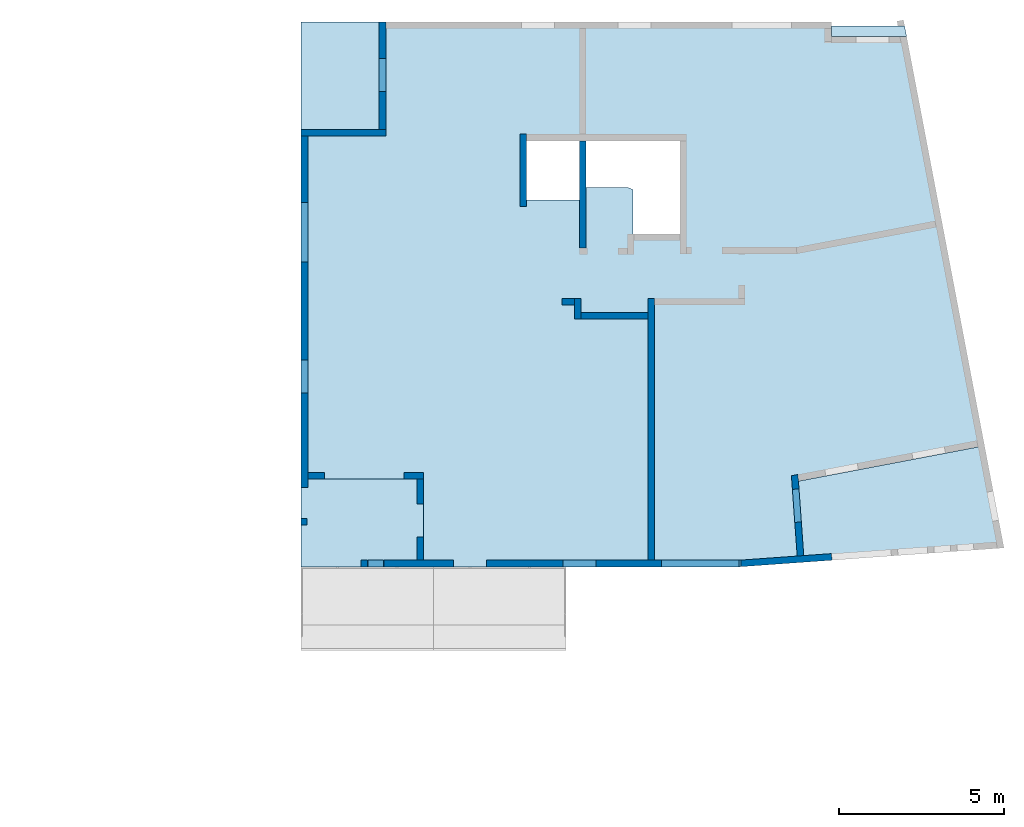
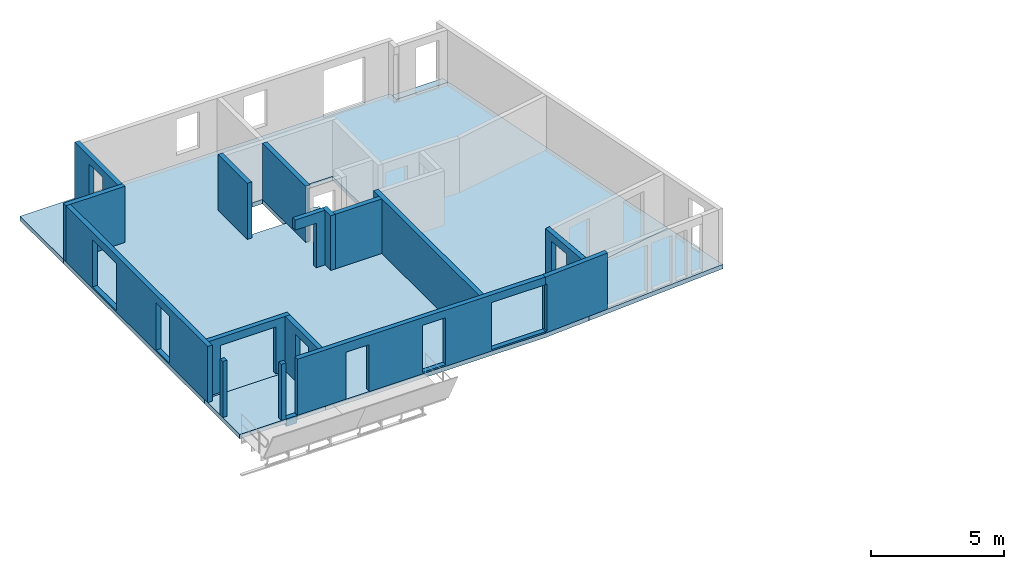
# One storey, part 1 of 6: 14 walls, 5 slabs, 2 columns, 1 beam, 14 openings.
"""IFC2X3 building model written with IfcOpenShell, lengths in centimetres."""

from ifc_helpers import new_model, entity, si_unit, converted_unit, derived_unit, direction, frame, frame_2d, origin, origin_2d_with_axis, place, context, subcontext, project, spatial, polyline, rectangle, outline, extrude, clip, bounded_halfspace, face_set, surface_model, source, transform, mapped, material, layer, layer_set, layer_usage, type_object, type_shapes, element, save


model = new_model("IFC2X3")

# Units and contexts
model_context = context("Model", 3, precision=0.001, world=origin(), true_north=direction((6.12303176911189e-17, 1.0)))
body_context = subcontext(model_context, "Body", "Model", "MODEL_VIEW")
ifc_project = project(units=[si_unit("LENGTHUNIT", "METRE", prefix="CENTI"), si_unit("AREAUNIT", "SQUARE_METRE"), si_unit("VOLUMEUNIT", "CUBIC_METRE"), converted_unit("PLANEANGLEUNIT", "DEGREE", entity("IfcRatioMeasure", 0.0174532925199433), si_unit("PLANEANGLEUNIT", "RADIAN"), dimensions=[0, 0, 0, 0, 0, 0, 0]), si_unit("MASSUNIT", "GRAM", prefix="KILO"), si_unit("TIMEUNIT", "SECOND"), si_unit("FREQUENCYUNIT", "HERTZ"), si_unit("THERMODYNAMICTEMPERATUREUNIT", "DEGREE_CELSIUS"), derived_unit("THERMALTRANSMITTANCEUNIT", [(si_unit("MASSUNIT", "GRAM", prefix="KILO"), 1), (si_unit("THERMODYNAMICTEMPERATUREUNIT", "KELVIN"), -1), (si_unit("TIMEUNIT", "SECOND"), -3)]), derived_unit("VOLUMETRICFLOWRATEUNIT", [(si_unit("LENGTHUNIT", "METRE"), 3), (si_unit("TIMEUNIT", "SECOND"), -1)]), si_unit("ELECTRICCURRENTUNIT", "AMPERE"), si_unit("ELECTRICVOLTAGEUNIT", "VOLT"), si_unit("POWERUNIT", "WATT"), si_unit("FORCEUNIT", "NEWTON"), si_unit("ILLUMINANCEUNIT", "LUX"), si_unit("LUMINOUSFLUXUNIT", "LUMEN"), si_unit("LUMINOUSINTENSITYUNIT", "CANDELA"), derived_unit("USERDEFINED", [(si_unit("MASSUNIT", "GRAM", prefix="KILO"), -1), (si_unit("LENGTHUNIT", "METRE"), -2), (si_unit("TIMEUNIT", "SECOND"), 3), (si_unit("LUMINOUSFLUXUNIT", "LUMEN"), 1)]), derived_unit("LINEARVELOCITYUNIT", [(si_unit("LENGTHUNIT", "METRE"), 1), (si_unit("TIMEUNIT", "SECOND"), -1)]), si_unit("PRESSUREUNIT", "PASCAL"), derived_unit("USERDEFINED", [(si_unit("LENGTHUNIT", "METRE"), -2), (si_unit("MASSUNIT", "GRAM", prefix="KILO"), 1), (si_unit("TIMEUNIT", "SECOND"), -2)])], contexts=[model_context])

# Site, building, storey
site_placement = place(None, origin())
site = spatial("IfcSite", under=ifc_project, at=site_placement, Name="Default", CompositionType="ELEMENT")
building_placement = place(site_placement, origin())
building = spatial("IfcBuilding", under=site, at=building_placement, CompositionType="ELEMENT")
storey_placement = place(building_placement, frame((0.0, 0.0, 544.0)))
storey = spatial("IfcBuildingStorey", under=building, at=storey_placement, Name="R+2", CompositionType="ELEMENT", Elevation=544.0)

# Columns
ifc_material_1 = material(Name="Béton_C25/30")
column_type_1 = type_object("IfcColumnType", Name="POTEAU_20x20_C25/30", PredefinedType="COLUMN", material=ifc_material_1)
shared_shape_1 = source(origin(), body_context, "Body", "SweptSolid", [
    extrude(rectangle(XDim=19.9999999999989, YDim=20.0, at=frame_2d((0.0, -1.08357767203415e-13), x_axis=(1.0, 0.0))), frame((1066.79142480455, 23217.301413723, 537.0), z_axis=(0.0, 0.0, 1.0), x_axis=(0.0, -1.0, 0.0)), (0.0, 0.0, 1.0), 257.0),
])
type_shapes(column_type_1, [shared_shape_1])
column_1_placement = place(storey_placement, frame((0.0, 0.0, -544.0)))
element("IfcColumn", 1, at=column_1_placement, inside=storey, type_object=column_type_1, material=ifc_material_1, Name="MR_POTEAU RECTANGULAIRE:POTEAU_20x20_C25/30", ObjectType="POTEAU_20x20_C25/30", context=body_context, shape_type="MappedRepresentation", body=[
    mapped(shared_shape_1, transform((0.0, 0.0, 0.0), scale=1.0)),
])
column_type_2 = type_object("IfcColumnType", Name="POTEAU_18x20_C25/30", PredefinedType="COLUMN", material=ifc_material_1)
shared_shape_2 = source(origin(), body_context, "Body", "SweptSolid", [
    extrude(rectangle(XDim=19.9999999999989, YDim=18.0, at=origin_2d_with_axis()), frame((885.385889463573, 23344.0596457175, 537.0), z_axis=(0.0, 0.0, 1.0), x_axis=(0.0, -1.0, 0.0)), (0.0, 0.0, 1.0), 257.0),
])
type_shapes(column_type_2, [shared_shape_2])
column_2_placement = place(storey_placement, frame((0.0, 0.0, -544.0)))
element("IfcColumn", 2, at=column_2_placement, inside=storey, type_object=column_type_2, material=ifc_material_1, Name="MR_POTEAU RECTANGULAIRE:POTEAU_18x20_C25/30", ObjectType="POTEAU_18x20_C25/30", context=body_context, shape_type="MappedRepresentation", body=[
    mapped(shared_shape_2, transform((0.0, 0.0, 0.0), scale=1.0)),
])

# Beam
shared_shape_3 = source(origin(), body_context, "Body", "SurfaceModel", [
    surface_model("IfcFaceBasedSurfaceModel", [(3.39023240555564, 0.0, 35.0), (3.39023240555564, 0.0, 0.0), (3.39023240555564, 20.0, 0.0), (3.39023240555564, 20.0, 35.0), (50.000076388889, 0.0, 35.0), (50.000076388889, 0.0, 0.0), (50.000076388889, 20.0, 0.0), (50.000076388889, 20.0, 35.0)], [face_set([[[0, 1, 2, 3]], [[4, 5, 6, 7]], [[3, 0, 4, 7]], [[2, 3, 7, 6]], [[1, 2, 6, 5]], [[0, 1, 5, 4]]])]),
])
beam_placement = place(storey_placement, frame((1074.67119239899, 23207.301413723, -42.0)))
element("IfcBeam", 3, at=beam_placement, inside=storey, material=ifc_material_1, Name="BB_POUTRE RECTANGULAIRE:20x35 ht", ObjectType="20x35 ht", context=body_context, shape_type="MappedRepresentation", body=[
    mapped(shared_shape_3, transform((0.0, 0.0, 0.0), scale=1.0)),
])

# Slab
ifc_layer_1 = layer(ifc_material_1, 20.0)
ifc_layer_set_1 = layer_set([ifc_layer_1], Name="Sol:DALLE_20_C25/30")
ifc_layer_usage_1 = layer_usage(ifc_layer_set_1, "AXIS3", "POSITIVE", 0.0)
slab_1_placement = place(storey_placement, origin())
element("IfcSlab", 4, at=slab_1_placement, inside=storey, material=ifc_layer_usage_1, Name="Sol:DALLE_20_C25/30", ObjectType="Sol:DALLE_20_C25/30", PredefinedType="FLOOR", context=body_context, shape_type="SweptSolid", body=[
    extrude(rectangle(XDim=265.758386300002, YDim=370.405535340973, at=frame_2d((-1.73372427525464e-12, 0.0), x_axis=(1.0, 0.0))), frame((1061.58865713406, 23340.180606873, -7.0), z_axis=(0.0, 0.0, -1.0), x_axis=(0.0, 1.0, 0.0)), (0.0, 0.0, 1.0), 20.0),
])

# Slab, openings
ifc_layer_usage_2 = layer_usage(ifc_layer_set_1, "AXIS3", "POSITIVE", 0.0)
slab_2_placement = place(storey_placement, frame((876.385889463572, 23207.301413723, -27.0)))
slab_2 = element("IfcSlab", 5, at=slab_2_placement, inside=storey, material=ifc_layer_usage_2, Name="Sol:DALLE_20_C25/30", ObjectType="Sol:DALLE_20_C25/30", PredefinedType="FLOOR", context=body_context, shape_type="SweptSolid", body=[
    extrude(outline(polyline([(-569.628100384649, 823.556623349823), (-569.628100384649, 779.253467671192), (-797.271793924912, 779.253467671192), (-1032.77428661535, -457.399013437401), (-470.298881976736, -564.514279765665), (-487.853581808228, -809.445702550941), (-290.971382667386, -823.556623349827), (682.368751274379, -823.556623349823), (682.368751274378, -557.798237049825), (1032.77428661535, -557.798237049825), (1032.77428661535, 498.443376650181), (796.7489260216, 498.443376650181), (796.7489260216, 823.556623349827), (-569.628100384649, 823.556623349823)])), frame((1032.77428661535, 823.556623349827, 20.0), z_axis=(0.0, 0.0, -1.0), x_axis=(-1.0, 0.0, 0.0)), (0.0, 0.0, 1.0), 20.0),
])
opening_1_placement = place(storey_placement, frame((876.385889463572, 23207.301413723, -27.0)))
element("IfcOpeningElement", 6, at=opening_1_placement, cuts=slab_2, ObjectType="Opening", context=body_context, shape_type="SweptSolid", body=[
    extrude(rectangle(XDim=178.833570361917, YDim=160.000244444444, at=frame_2d((271.368153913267, 374.864836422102), x_axis=(0.0, 1.0))), frame((1032.77428661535, 823.556623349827, 20.0), z_axis=(0.0, 0.0, -1.0), x_axis=(-1.0, 0.0, 0.0)), (0.0, 0.0, 1.0), 20.0),
])
opening_2_placement = place(storey_placement, frame((876.385889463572, 23207.301413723, -27.0)))
element("IfcOpeningElement", 7, at=opening_2_placement, cuts=slab_2, ObjectType="Opening", context=body_context, shape_type="SweptSolid", body=[
    extrude(outline(polyline([(171.368031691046, 323.67140678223), (171.368031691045, 464.281621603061), (-112.632432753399, 464.281621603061), (-112.632432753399, 181.447892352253), (29.2458251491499, 181.447892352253), (29.2458251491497, 316.0642780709), (45.5593653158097, 323.67140678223), (171.368031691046, 323.67140678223)])), frame((1032.77428661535, 823.556623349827, 20.0), z_axis=(0.0, 0.0, -1.0), x_axis=(-1.0, 0.0, 0.0)), (0.0, 0.0, 1.0), 20.0),
])

# Slabs
ifc_layer_usage_3 = layer_usage(ifc_layer_set_1, "AXIS3", "POSITIVE", 0.0)
slab_3_placement = place(storey_placement, origin())
element("IfcSlab", 8, at=slab_3_placement, inside=storey, material=ifc_layer_usage_3, Name="Sol:DALLE_20_C25/30", ObjectType="Sol:DALLE_20_C25/30", PredefinedType="FLOOR", context=body_context, shape_type="SweptSolid", body=[
    extrude(outline(polyline([(-15.9377070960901, -112.304294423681), (15.9377070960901, -112.304294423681), (15.9377070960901, 109.269189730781), (-15.9377070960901, 115.339399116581), (-15.9377070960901, -112.304294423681)])), frame((2591.09257088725, 24826.0492118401, -7.0), z_axis=(0.0, 0.0, -1.0), x_axis=(0.0, 1.0, 0.0)), (0.0, 0.0, 1.0), 20.0),
])
ifc_layer_usage_4 = layer_usage(ifc_layer_set_1, "AXIS3", "POSITIVE", 0.0)
slab_4_placement = place(storey_placement, origin())
element("IfcSlab", 9, at=slab_4_placement, inside=storey, material=ifc_layer_usage_4, Name="Sol:DALLE_20_C25/30", ObjectType="Sol:DALLE_20_C25/30", PredefinedType="FLOOR", context=body_context, shape_type="SweptSolid", body=[
    extrude(outline(polyline([(-139.554317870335, -293.435771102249), (174.771550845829, -293.435771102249), (104.33708489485, 307.723466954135), (-139.554317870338, 279.148075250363), (-139.554317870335, -293.435771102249)])), frame((2679.7859457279, 23381.4743511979, -7.0), z_axis=(0.0, 0.0, -1.0), x_axis=(0.187073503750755, -0.982345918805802, 0.0)), (0.0, 0.0, 1.0), 20.0),
])
ifc_layer_usage_5 = layer_usage(ifc_layer_set_1, "AXIS3", "POSITIVE", 0.0)
slab_5_placement = place(storey_placement, origin())
element("IfcSlab", 10, at=slab_5_placement, inside=storey, material=ifc_layer_usage_5, Name="Sol:DALLE_20_C25/30", ObjectType="Sol:DALLE_20_C25/30", PredefinedType="FLOOR", context=body_context, shape_type="SweptSolid", body=[
    extrude(rectangle(XDim=325.112966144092, YDim=236.02536059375, at=frame_2d((0.0, -5.6843418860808e-14), x_axis=(1.0, 0.0))), frame((994.398569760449, 24691.8578967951, -7.0), z_axis=(0.0, 0.0, -1.0), x_axis=(0.0, 1.0, 0.0)), (0.0, 0.0, 1.0), 20.0),
])

# Wall
ifc_material_2 = material(Name="Maçonnerie - Béton")
ifc_layer_2 = layer(ifc_material_2, 20.0)
ifc_layer_set_2 = layer_set([ifc_layer_2], Name="Mur de base:BBM_20")
ifc_layer_usage_6 = layer_usage(ifc_layer_set_2, "AXIS2", "NEGATIVE", 10.0)
wall_type_1 = type_object("IfcWallType", Name="Mur de base:BBM_20", PredefinedType="STANDARD", material=ifc_layer_set_2)
wall_1_placement = place(storey_placement, frame((876.385889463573, 24519.301413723, -7.0)))
element("IfcWallStandardCase", 11, at=wall_1_placement, inside=storey, type_object=wall_type_1, material=ifc_layer_usage_6, Name="Mur de base:BBM_20", ObjectType="Mur de base:BBM_20", context=body_context, shape_type="Clipping", body=[
    clip(extrude(rectangle(XDim=256.02536059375, YDim=20.0000000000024, at=frame_2d((128.012680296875, 0.0), x_axis=(-1.0, 0.0))), origin(), (0.0, 0.0, 1.0), 257.0), bounded_halfspace(frame((0.0, -10.0, 257.0), z_axis=(0.0, 0.0, -1.0), x_axis=(0.0, 1.0, 0.0)), True, frame((0.0, -10.0, 257.0)), polyline([(0.0, 0.0), (20.0, 0.0), (256.02536059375, 0.0), (256.02536059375, 20.0), (236.02536059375, 20.0), (0.0, 20.0), (0.0, 0.0)]))),
])

# Wall, opening
ifc_layer_usage_7 = layer_usage(ifc_layer_set_2, "AXIS2", "NEGATIVE", 10.0)
wall_2_placement = place(storey_placement, frame((1122.41125005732, 24529.301413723, -7.0), z_axis=(0.0, 0.0, 1.0), x_axis=(0.0, 1.0, 0.0)))
wall_2 = element("IfcWallStandardCase", 12, at=wall_2_placement, inside=storey, type_object=wall_type_1, material=ifc_layer_usage_7, Name="Mur de base:BBM_20", ObjectType="Mur de base:BBM_20", context=body_context, shape_type="Clipping", body=[
    clip(extrude(rectangle(XDim=325.113246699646, YDim=20.0000000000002, at=frame_2d((162.556623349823, 0.0), x_axis=(-1.0, 0.0))), origin(), (0.0, 0.0, 1.0), 257.0), bounded_halfspace(frame((0.0, -10.0, 257.0), z_axis=(0.0, 0.0, -1.0), x_axis=(1.0, 0.0, 0.0)), True, frame((0.0, -10.0, 257.0)), polyline([(0.0, 0.0), (305.113246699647, 0.0), (325.113246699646, 0.0), (325.113246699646, 20.0), (0.0, 20.0), (0.0, 0.0)]))),
])
opening_3_placement = place(wall_2_placement, frame((-24529.301413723, 1122.41125005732, 7.0), z_axis=(0.0, 0.0, 1.0), x_axis=(0.0, -1.0, 0.0)))
element("IfcOpeningElement", 13, at=opening_3_placement, cuts=wall_2, Name="Mur de base:BBM_20", ObjectType="Opening", context=body_context, shape_type="SweptSolid", body=[
    extrude(rectangle(XDim=215.0, YDim=100.000000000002, at=frame_2d((0.0, -1.73372427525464e-12), x_axis=(1.0, 0.0))), frame((1264.81125005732, 24694.4146604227, 107.5), z_axis=(-1.0, 0.0, 0.0), x_axis=(0.0, 0.0, -1.0)), (0.0, 0.0, 1.0), 304.8),
])

# Wall, openings
ifc_layer_usage_8 = layer_usage(ifc_layer_set_2, "AXIS2", "NEGATIVE", 10.0)
wall_3_placement = place(storey_placement, frame((886.385889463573, 24509.301413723, -7.0), z_axis=(0.0, 0.0, 1.0), x_axis=(0.0, -1.0, 0.0)))
wall_3 = element("IfcWallStandardCase", 14, at=wall_3_placement, inside=storey, type_object=wall_type_1, material=ifc_layer_usage_8, Name="Mur de base:BBM_20", ObjectType="Mur de base:BBM_20", context=body_context, shape_type="Clipping", body=[
    clip(extrude(rectangle(XDim=1062.0, YDim=20.0, at=frame_2d((531.000000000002, -3.37507799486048e-14), x_axis=(-1.0, 0.0))), origin(), (0.0, 0.0, 1.0), 257.0), bounded_halfspace(frame((0.0, -10.0, 257.0), z_axis=(0.0, 0.0, -1.0), x_axis=(-1.0, 0.0, 0.0)), True, frame((0.0, -10.0, 257.0)), polyline([(0.0, 0.0), (1062.0, 0.0), (1062.0, 18.0), (1062.0, 20.0), (1036.2416137, 20.0), (1016.2416137, 20.0), (0.0, 20.0), (0.0, 0.0)]))),
])
opening_4_placement = place(wall_3_placement, frame((24509.301413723, -886.385889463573, 7.0), z_axis=(0.0, 0.0, 1.0), x_axis=(0.0, 1.0, 0.0)))
element("IfcOpeningElement", 15, at=opening_4_placement, cuts=wall_3, Name="Mur de base:BBM_20", ObjectType="Opening", context=body_context, shape_type="SweptSolid", body=[
    extrude(rectangle(XDim=215.0, YDim=180.000000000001, at=frame_2d((0.0, 0.0), x_axis=(0.0, 1.0))), frame((723.985889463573, 24219.301413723, 107.5), z_axis=(1.0, 0.0, 0.0), x_axis=(0.0, -1.0, 0.0)), (0.0, 0.0, 1.0), 304.8),
])
opening_5_placement = place(wall_3_placement, frame((24509.301413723, -886.385889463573, 7.0), z_axis=(0.0, 0.0, 1.0), x_axis=(0.0, 1.0, 0.0)))
element("IfcOpeningElement", 16, at=opening_5_placement, cuts=wall_3, Name="Mur de base:BBM_20", ObjectType="Opening", context=body_context, shape_type="SweptSolid", body=[
    extrude(rectangle(XDim=215.0, YDim=99.9999999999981, at=frame_2d((-1.73372427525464e-12, 0.0), x_axis=(0.0, 1.0))), frame((723.985889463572, 23783.059800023, 107.5), z_axis=(1.0, 0.0, 0.0), x_axis=(0.0, -1.0, 0.0)), (0.0, 0.0, 1.0), 304.8),
])

# Wall, opening
ifc_layer_usage_9 = layer_usage(ifc_layer_set_2, "AXIS2", "NEGATIVE", 10.0)
wall_4_placement = place(storey_placement, frame((896.385889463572, 23483.059800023, 0.0)))
wall_4 = element("IfcWallStandardCase", 17, at=wall_4_placement, inside=storey, type_object=wall_type_1, material=ifc_layer_usage_9, Name="Mur de base:BBM_20", ObjectType="Mur de base:BBM_20", context=body_context, shape_type="Clipping", body=[
    clip(extrude(rectangle(XDim=350.405535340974, YDim=20.0000000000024, at=frame_2d((175.202767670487, 0.0), x_axis=(-1.0, 0.0))), origin(), (0.0, 0.0, 1.0), 250.0), bounded_halfspace(frame((0.0, -10.0, 250.0), z_axis=(0.0, 0.0, -1.0), x_axis=(0.0, 1.0, 0.0)), True, frame((0.0, -10.0, 250.0)), polyline([(0.0, 0.0), (330.405535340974, 0.0), (350.405535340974, 0.0), (350.405535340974, 20.0), (0.0, 20.0), (0.0, 0.0)]))),
])
opening_6_placement = place(wall_4_placement, frame((-896.385889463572, -23483.059800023, 0.0)))
element("IfcOpeningElement", 18, at=opening_6_placement, cuts=wall_4, Name="Mur de base:BBM_20", ObjectType="Opening", context=body_context, shape_type="SweptSolid", body=[
    extrude(rectangle(XDim=215.0, YDim=240.0, at=frame_2d((0.0, 0.0), x_axis=(0.0, 1.0))), frame((1066.79142480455, 23320.659800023, 107.5), z_axis=(0.0, 1.0, 0.0), x_axis=(1.0, 0.0, 0.0)), (0.0, 0.0, 1.0), 304.8),
])

ifc_layer_usage_10 = layer_usage(ifc_layer_set_2, "AXIS2", "NEGATIVE", 10.0)
wall_5_placement = place(storey_placement, frame((1236.79142480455, 23473.059800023, 0.0), z_axis=(0.0, 0.0, 1.0), x_axis=(0.0, -1.0, 0.0)))
wall_5 = element("IfcWallStandardCase", 19, at=wall_5_placement, inside=storey, type_object=wall_type_1, material=ifc_layer_usage_10, Name="Mur de base:BBM_20", ObjectType="Mur de base:BBM_20", context=body_context, shape_type="Clipping", body=[
    clip(extrude(rectangle(XDim=245.7583863, YDim=20.0000000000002, at=frame_2d((122.87919315, -1.59872115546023e-14), x_axis=(-1.0, 0.0))), origin(), (0.0, 0.0, 1.0), 250.0), bounded_halfspace(frame((0.0, -10.0, 250.0), z_axis=(0.0, 0.0, -1.0), x_axis=(-1.0, 0.0, 0.0)), True, frame((0.0, -10.0, 250.0)), polyline([(0.0, 0.0), (245.7583863, 0.0), (245.7583863, 20.0), (0.0, 20.0), (0.0, 0.0)]))),
])
opening_7_placement = place(wall_5_placement, frame((23473.059800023, -1236.79142480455, 0.0), z_axis=(0.0, 0.0, 1.0), x_axis=(0.0, 1.0, 0.0)))
element("IfcOpeningElement", 20, at=opening_7_placement, cuts=wall_5, Name="Mur de base:BBM_20", ObjectType="Opening", context=body_context, shape_type="SweptSolid", body=[
    extrude(rectangle(XDim=215.0, YDim=99.9999999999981, at=frame_2d((-1.73372427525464e-12, 0.0), x_axis=(0.0, 1.0))), frame((1074.39142480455, 23347.301413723, 107.5), z_axis=(1.0, 0.0, 0.0), x_axis=(0.0, -1.0, 0.0)), (0.0, 0.0, 1.0), 304.8),
])

# Wall, openings
ifc_layer_usage_11 = layer_usage(ifc_layer_set_2, "AXIS2", "NEGATIVE", 10.0)
wall_6_placement = place(storey_placement, frame((1126.79142480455, 23217.301413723, -7.0)))
wall_6 = element("IfcWallStandardCase", 21, at=wall_6_placement, inside=storey, type_object=wall_type_1, material=ifc_layer_usage_11, Name="Mur de base:BBM_20", ObjectType="Mur de base:BBM_20", context=body_context, shape_type="Clipping", body=[
    clip(extrude(outline(polyline([(0.0, -10.0), (1073.34013394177, -10.0), (1072.62433303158, 10.0), (817.356097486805, 10.0), (797.356097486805, 10.0), (120.0, 10.0), (100.0, 10.0), (0.0, 10.0), (0.0, -10.0)])), origin(), (0.0, 0.0, 1.0), 257.0), bounded_halfspace(frame((0.0, -10.0, 257.0), z_axis=(0.0, 0.0, -1.0), x_axis=(0.0, 1.0, 0.0)), True, frame((0.0, -10.0, 257.0)), polyline([(0.0, 0.0), (1073.34013394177, 0.0), (1072.62433303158, 20.0), (817.356097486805, 20.0), (797.356097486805, 20.0), (120.0, 20.0), (100.0, 20.0), (0.0, 20.0), (0.0, 0.0)]))),
])
opening_8_placement = place(wall_6_placement, frame((-1126.79142480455, -23217.301413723, 7.0)))
element("IfcOpeningElement", 22, at=opening_8_placement, cuts=wall_6, Name="Mur de base:BBM_20", ObjectType="Opening", context=body_context, shape_type="SweptSolid", body=[
    extrude(rectangle(XDim=215.0, YDim=240.0, at=origin_2d_with_axis()), frame((2086.14752229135, 23074.901413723, 107.5), z_axis=(0.0, 1.0, 0.0), x_axis=(0.0, 0.0, -1.0)), (0.0, 0.0, 1.0), 304.8),
])
opening_9_placement = place(wall_6_placement, frame((-1126.79142480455, -23217.301413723, 7.0)))
element("IfcOpeningElement", 23, at=opening_9_placement, cuts=wall_6, Name="Mur de base:BBM_20", ObjectType="Opening", context=body_context, shape_type="SweptSolid", body=[
    extrude(rectangle(XDim=215.0, YDim=100.0, at=frame_2d((-5.6843418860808e-14, -1.06581410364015e-13), x_axis=(1.0, 0.0))), frame((1386.79142480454, 23074.901413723, 100.5), z_axis=(0.0, 1.0, 0.0), x_axis=(0.0, 0.0, -1.0)), (0.0, 0.0, 1.0), 304.8),
])
opening_10_placement = place(wall_6_placement, frame((-1126.79142480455, -23217.301413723, 7.0)))
element("IfcOpeningElement", 24, at=opening_10_placement, cuts=wall_6, Name="Mur de base:BBM_20", ObjectType="Opening", context=body_context, shape_type="SweptSolid", body=[
    extrude(rectangle(XDim=215.0, YDim=99.9999999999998, at=frame_2d((-1.10134124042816e-13, 0.0), x_axis=(0.0, 1.0))), frame((1718.14752229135, 23054.901413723, 107.5), z_axis=(0.0, 1.0, 0.0), x_axis=(1.0, 0.0, 0.0)), (0.0, 0.0, 1.0), 304.8),
])

ifc_layer_usage_12 = layer_usage(ifc_layer_set_2, "AXIS2", "NEGATIVE", 10.0)
wall_7_placement = place(storey_placement, frame((2199.41667355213, 23217.2758279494, -7.0), z_axis=(0.0, 0.0, 1.0), x_axis=(0.997441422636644, 0.0714885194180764, 0.0)))
wall_7 = element("IfcWallStandardCase", 25, at=wall_7_placement, inside=storey, type_object=wall_type_1, material=ifc_layer_usage_12, Name="Mur de base:BBM_20", ObjectType="Mur de base:BBM_20", context=body_context, shape_type="Clipping", body=[
    clip(extrude(outline(polyline([(281.435112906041, -10.0), (281.435112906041, 10.0), (197.387229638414, 10.0), (177.387229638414, 10.0), (0.715800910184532, 10.0), (0.0, -10.0), (281.435112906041, -10.0)])), origin(), (0.0, 0.0, 1.0), 257.0), bounded_halfspace(frame((0.0, -10.0, 257.0), z_axis=(0.0, 0.0, -1.0), x_axis=(0.071488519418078, 0.997441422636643, 0.0)), True, frame((0.0, -10.0, 257.0)), polyline([(0.0, 0.0), (281.435112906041, 0.0), (281.435112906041, 20.0), (197.387229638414, 20.0), (177.387229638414, 20.0), (0.715800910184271, 20.0), (0.0, 0.0)]))),
])
opening_11_placement = place(wall_7_placement, origin())
element("IfcOpeningElement", 26, at=opening_11_placement, cuts=wall_7, Name="Mur de base:BBM_20", ObjectType="Opening", context=body_context, shape_type="SweptSolid", body=[
    extrude(rectangle(XDim=215.0, YDim=180.0, at=frame_2d((-2.20268248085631e-13, 0.0), x_axis=(0.0, 1.0))), frame((371.435112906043, -162.400000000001, 114.5), z_axis=(0.0, 1.0, 0.0), x_axis=(1.0, 0.0, 0.0)), (0.0, 0.0, 1.0), 304.800000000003),
])
opening_12_placement = place(wall_7_placement, origin())
element("IfcOpeningElement", 27, at=opening_12_placement, cuts=wall_7, Name="Mur de base:BBM_20", ObjectType="Opening", context=body_context, shape_type="SweptSolid", body=[
    extrude(rectangle(XDim=215.0, YDim=240.0, at=origin_2d_with_axis()), frame((-113.692399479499, -1.85144999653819, 114.5), z_axis=(0.0714885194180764, 0.997441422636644, 0.0), x_axis=(0.0, 0.0, -1.0)), (0.0, 0.0, 1.0), 19.9999999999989),
])

# Wall, opening
ifc_layer_usage_13 = layer_usage(ifc_layer_set_2, "AXIS2", "NEGATIVE", 10.0)
wall_8_placement = place(storey_placement, frame((2385.60957327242, 23240.6462777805, -7.0), z_axis=(0.0, 0.0, 1.0), x_axis=(-0.0714885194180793, 0.997441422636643, 0.0)))
wall_8 = element("IfcWallStandardCase", 28, at=wall_8_placement, inside=storey, type_object=wall_type_1, material=ifc_layer_usage_13, Name="Mur de base:BBM_20", ObjectType="Mur de base:BBM_20", context=body_context, shape_type="Clipping", body=[
    clip(extrude(outline(polyline([(245.69651337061, -10.0), (243.353225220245, 10.0), (0.0, 10.0), (0.0, -10.0), (225.559706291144, -10.0), (245.69651337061, -10.0)])), origin(), (0.0, 0.0, 1.0), 257.0), bounded_halfspace(frame((0.0, -10.0, 257.0), z_axis=(0.0, 0.0, -1.0), x_axis=(0.997441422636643, -0.0714885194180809, 0.0)), True, frame((0.0, -10.0, 257.0)), polyline([(0.0, 0.0), (225.559706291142, 0.0), (245.696513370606, 0.0), (243.353225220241, 20.0), (0.0, 20.0), (0.0, 0.0)]))),
])
opening_13_placement = place(wall_8_placement, frame((-23010.6395900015, 4040.94519933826, 7.0), z_axis=(0.0, 0.0, 1.0), x_axis=(-0.0714885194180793, -0.997441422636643, 0.0)))
element("IfcOpeningElement", 29, at=opening_13_placement, cuts=wall_8, Name="Mur de base:BBM_20", ObjectType="Opening", context=body_context, shape_type="SweptSolid", body=[
    extrude(rectangle(XDim=215.0, YDim=100.000000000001, at=frame_2d((0.0, -1.74082970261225e-12), x_axis=(1.0, 0.0))), frame((2516.78000828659, 23402.4229488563, 107.5), z_axis=(-0.997441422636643, -0.0714885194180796, 0.0), x_axis=(0.0, 0.0, -1.0)), (0.0, 0.0, 1.0), 304.8),
])

# Walls
ifc_layer_3 = layer(ifc_material_1, 20.0)
ifc_layer_set_3 = layer_set([ifc_layer_3], Name="Mur de base:VOILE_20_C25/30")
ifc_layer_usage_14 = layer_usage(ifc_layer_set_3, "AXIS2", "NEGATIVE", 10.0)
wall_type_2 = type_object("IfcWallType", Name="Mur de base:VOILE_20_C25/30", PredefinedType="STANDARD", material=ifc_layer_set_3)
wall_9_placement = place(storey_placement, frame((1547.79189994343, 24296.306363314, -7.0), z_axis=(0.0, 0.0, 1.0), x_axis=(0.0, 1.0, 0.0)))
element("IfcWallStandardCase", 30, at=wall_9_placement, inside=storey, type_object=wall_type_2, material=ifc_layer_usage_14, Name="Mur de base:VOILE_20_C25/30", ObjectType="Mur de base:VOILE_20_C25/30", context=body_context, shape_type="Clipping", body=[
    clip(extrude(rectangle(XDim=218.833295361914, YDim=19.9999999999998, at=frame_2d((109.416647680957, 1.06581410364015e-14), x_axis=(-1.0, 0.0))), origin(), (0.0, 0.0, 1.0), 257.0), bounded_halfspace(frame((0.0, -10.0, 257.0), z_axis=(0.0, 0.0, -1.0), x_axis=(1.0, 0.0, 0.0)), True, frame((0.0, -10.0, 257.0)), polyline([(0.0, 0.0), (198.833295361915, 0.0), (218.833295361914, 0.0), (218.833295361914, 20.0), (0.0, 20.0), (0.0, 0.0)]))),
])
ifc_layer_usage_15 = layer_usage(ifc_layer_set_3, "AXIS2", "NEGATIVE", 10.0)
wall_10_placement = place(storey_placement, frame((1727.79214438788, 24171.3058652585, -7.0), z_axis=(0.0, 0.0, 1.0), x_axis=(0.0, 1.0, 0.0)))
element("IfcWallStandardCase", 31, at=wall_10_placement, inside=storey, type_object=wall_type_2, material=ifc_layer_usage_15, Name="Mur de base:VOILE_20_C25/30", ObjectType="Mur de base:VOILE_20_C25/30", context=body_context, shape_type="Clipping", body=[
    clip(extrude(rectangle(XDim=323.833793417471, YDim=20.0000000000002, at=frame_2d((161.916896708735, -6.21724893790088e-15), x_axis=(-1.0, 0.0))), origin(), (0.0, 0.0, 1.0), 257.0), bounded_halfspace(frame((0.0, -10.0, 257.0), z_axis=(0.0, 0.0, -1.0), x_axis=(1.0, 0.0, 0.0)), True, frame((0.0, -10.0, 257.0)), polyline([(0.0, 0.0), (323.833793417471, 0.0), (323.833793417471, 20.0), (0.0, 20.0), (0.0, 0.0)]))),
])
ifc_layer_usage_16 = layer_usage(ifc_layer_set_3, "AXIS2", "NEGATIVE", 10.0)
wall_11_placement = place(storey_placement, frame((1934.14752229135, 23227.301413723, 0.0), z_axis=(0.0, 0.0, 1.0), x_axis=(0.0, 1.0, 0.0)))
element("IfcWallStandardCase", 32, at=wall_11_placement, inside=storey, type_object=wall_type_2, material=ifc_layer_usage_16, Name="Mur de base:VOILE_20_C25/30", ObjectType="Mur de base:VOILE_20_C25/30", context=body_context, shape_type="Clipping", body=[
    clip(extrude(rectangle(XDim=791.004217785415, YDim=19.9999999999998, at=frame_2d((395.502108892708, 8.88178419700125e-15), x_axis=(-1.0, 0.0))), origin(), (0.0, 0.0, 1.0), 250.0), bounded_halfspace(frame((0.0, -10.0, 250.0), z_axis=(0.0, 0.0, -1.0), x_axis=(1.0, 0.0, 0.0)), True, frame((0.0, -10.0, 250.0)), polyline([(0.0, 0.0), (771.004217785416, 0.0), (791.004217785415, 0.0), (791.004217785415, 20.0), (749.004153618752, 20.0), (729.004153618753, 20.0), (0.0, 20.0), (0.0, 0.0)]))),
])

# Wall, opening
ifc_layer_usage_17 = layer_usage(ifc_layer_set_3, "AXIS2", "NEGATIVE", 10.0)
wall_12_placement = place(storey_placement, frame((1573.3961455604, 24008.1933501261, 0.0)))
wall_12 = element("IfcWallStandardCase", 33, at=wall_12_placement, inside=storey, type_object=wall_type_2, material=ifc_layer_usage_17, Name="Mur de base:VOILE_20_C25/30", ObjectType="Mur de base:VOILE_20_C25/30", context=body_context, shape_type="Clipping", body=[
    clip(extrude(rectangle(XDim=129.261004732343, YDim=20.0000000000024, at=frame_2d((64.6305023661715, 0.0), x_axis=(-1.0, 0.0))), origin(), (0.0, 0.0, 1.0), 250.0), bounded_halfspace(frame((0.0, -10.0, 250.0), z_axis=(0.0, 0.0, -1.0), x_axis=(0.0, 1.0, 0.0)), True, frame((0.0, -10.0, 250.0)), polyline([(0.0, 0.0), (129.261004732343, 0.0), (129.261004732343, 20.0), (0.0, 20.0), (0.0, 19.0), (0.0, 1.0), (0.0, 0.0)]))),
])
opening_14_placement = place(wall_12_placement, frame((-1573.3961455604, -24008.1933501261, 0.0)))
element("IfcOpeningElement", 34, at=opening_14_placement, cuts=wall_12, Name="Mur de base:VOILE_20_C25/30", ObjectType="Opening", context=body_context, shape_type="SweptSolid", body=[
    extrude(rectangle(XDim=204.0, YDim=91.9999999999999, at=origin_2d_with_axis()), frame((1618.65715029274, 23865.7933501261, 102.0), z_axis=(0.0, 1.0, 0.0), x_axis=(0.0, 0.0, -1.0)), (0.0, 0.0, 1.0), 304.8),
])

# Walls
ifc_layer_usage_18 = layer_usage(ifc_layer_set_3, "AXIS2", "NEGATIVE", 10.0)
wall_13_placement = place(storey_placement, frame((1712.65715029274, 24018.1933501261, 0.0), z_axis=(0.0, 0.0, 1.0), x_axis=(0.0, -1.0, 0.0)))
element("IfcWallStandardCase", 35, at=wall_13_placement, inside=storey, type_object=wall_type_2, material=ifc_layer_usage_18, Name="Mur de base:VOILE_20_C25/30", ObjectType="Mur de base:VOILE_20_C25/30", context=body_context, shape_type="Clipping", body=[
    clip(extrude(rectangle(XDim=61.8877827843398, YDim=20.0000000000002, at=frame_2d((30.9438913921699, 0.0), x_axis=(-1.0, 0.0))), origin(), (0.0, 0.0, 1.0), 250.0), bounded_halfspace(frame((0.0, -10.0, 250.0), z_axis=(0.0, 0.0, -1.0), x_axis=(-1.0, 0.0, 0.0)), True, frame((0.0, -10.0, 250.0)), polyline([(0.0, 0.0), (20.0, 0.0), (61.8877827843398, 0.0), (61.8877827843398, 20.0), (41.8877827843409, 20.0), (0.0, 20.0), (0.0, 0.0)]))),
])
ifc_layer_usage_19 = layer_usage(ifc_layer_set_3, "AXIS2", "NEGATIVE", 10.0)
wall_14_placement = place(storey_placement, frame((1722.65715029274, 23966.3055673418, 0.0)))
element("IfcWallStandardCase", 36, at=wall_14_placement, inside=storey, type_object=wall_type_2, material=ifc_layer_usage_19, Name="Mur de base:VOILE_20_C25/30", ObjectType="Mur de base:VOILE_20_C25/30", context=body_context, shape_type="Clipping", body=[
    clip(extrude(rectangle(XDim=201.490371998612, YDim=20.0000000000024, at=frame_2d((100.745185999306, 0.0), x_axis=(-1.0, 0.0))), origin(), (0.0, 0.0, 1.0), 250.0), bounded_halfspace(frame((0.0, -10.0, 250.0), z_axis=(0.0, 0.0, -1.0), x_axis=(0.0, 1.0, 0.0)), True, frame((0.0, -10.0, 250.0)), polyline([(0.0, 0.0), (201.490371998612, 0.0), (201.490371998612, 20.0), (0.0, 20.0), (0.0, 0.0)]))),
])

save(model, "model.ifc")
